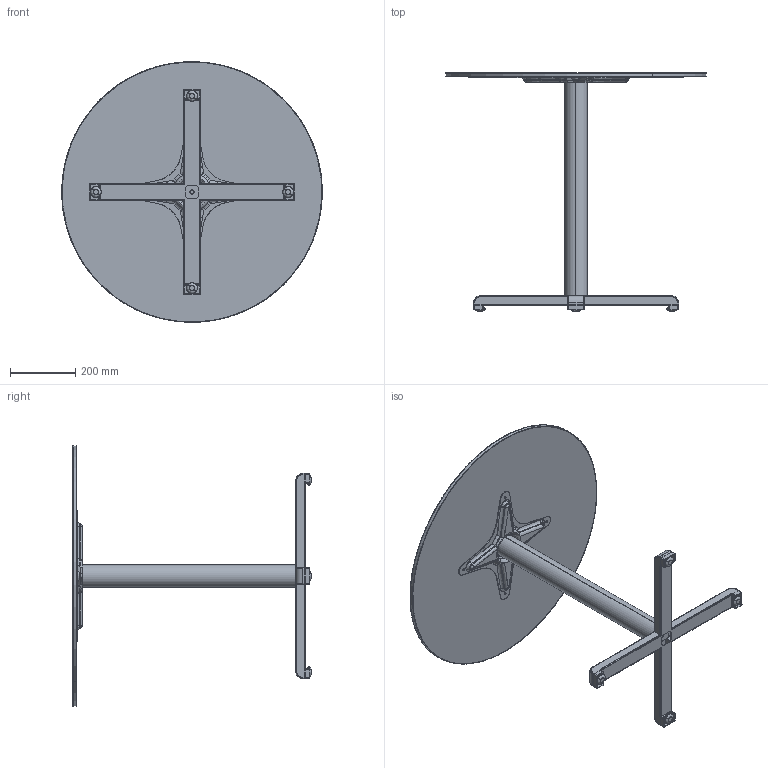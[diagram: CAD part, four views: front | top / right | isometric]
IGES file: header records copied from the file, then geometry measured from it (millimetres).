
Start section: SolidWorks IGES file using analytic representation for surfaces
Global section: file name: C:\Users\Ýbrahim Mert\Desktop\SW çizimler\3D Enjeksiyon Ürünler\masalar\Q800.IGS; native system: SolidWorks 2011; preprocessor: SolidWorks 2011; author: Ýbrahim Mert; date: 150303.000930; units: millimetre
Bounding box: 799.96 x 731 x 799.86 mm (x, y, z)
Surface area: 1826966.2 mm2 (no closed solid volume)
Topology: 0 solids, 0 shells, 462 faces, 5914 edges, 5914 vertices
Faces by surface type: bspline 255, revolution 207
